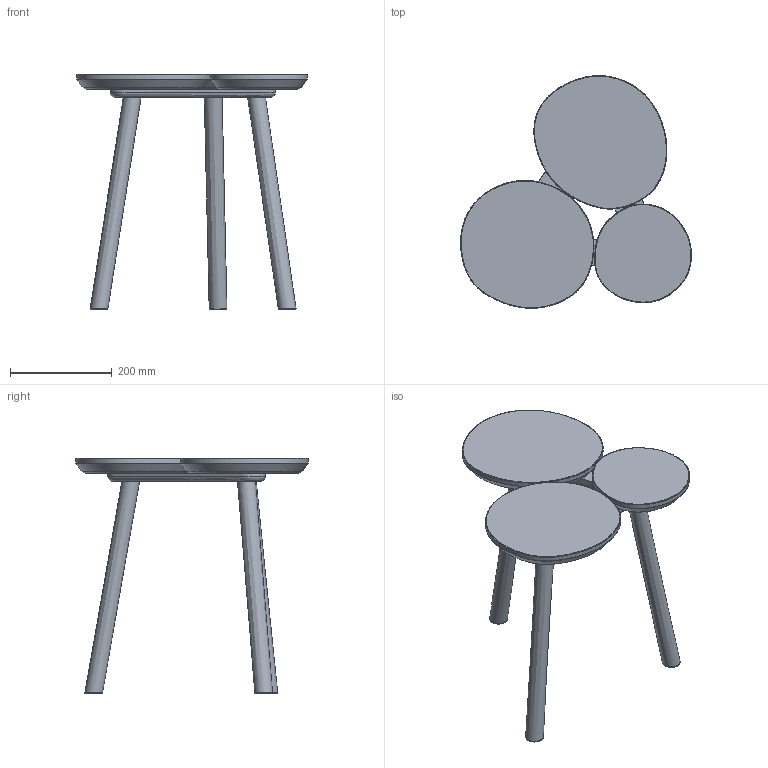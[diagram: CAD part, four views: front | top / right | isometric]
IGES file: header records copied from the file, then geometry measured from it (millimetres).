
Global section: file name: C:\Users\Timo Mikkonen\Desktop\Nikari 3d. tiedostot rfa\COFFEE TABLES\iges\July Stool-table.igs; native system: Rhinoceros ( Sep  8 2025 ); preprocessor: Trout Lake IGES 012 Sep  8 2025; date: 250922.074417; units: millimetre
Bounding box: 453.06 x 456.87 x 462.56 mm (x, y, z)
Surface area: 565082.7 mm2 (no closed solid volume)
Topology: 0 solids, 0 shells, 52 faces, 1996 edges, 1982 vertices
Faces by surface type: bspline 52
